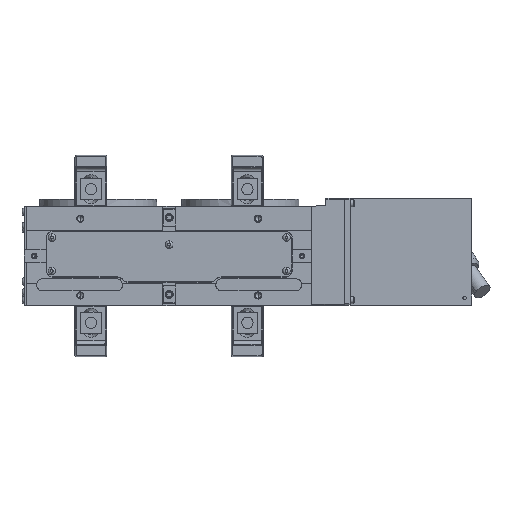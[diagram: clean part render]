
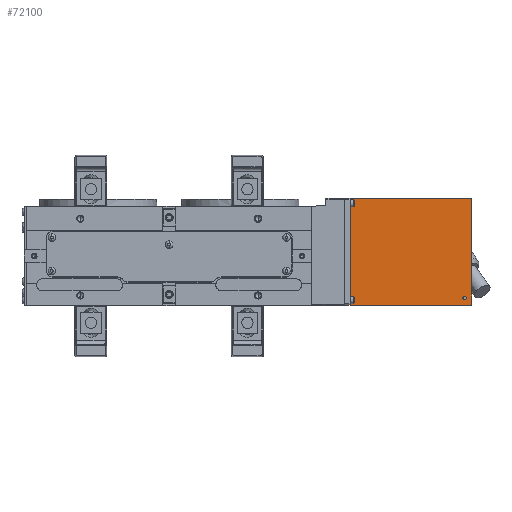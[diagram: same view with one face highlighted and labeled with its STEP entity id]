
A CAD part, front view. The second image highlights one B-rep face of the part: STEP entity #72100.
In plain terms, the highlighted planar face has unit normal (0, -1, 0).
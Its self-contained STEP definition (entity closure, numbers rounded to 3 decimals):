
#132 = DIRECTION ( 'NONE',  ( 0., -1., 0. ) ) ;
#2742 = LINE ( 'NONE', #78595, #48412 ) ;
#8885 = CARTESIAN_POINT ( 'NONE',  ( 179., 17., 0. ) ) ;
#12226 = ORIENTED_EDGE ( 'NONE', *, *, #22628, .F. ) ;
#15243 = EDGE_CURVE ( 'NONE', #27473, #57325, #101691, .T. ) ;
#15853 = CARTESIAN_POINT ( 'NONE',  ( 179., 17., -150. ) ) ;
#18195 = CARTESIAN_POINT ( 'NONE',  ( 8., 17., -150. ) ) ;
#21156 = EDGE_CURVE ( 'NONE', #57325, #27473, #35762, .T. ) ;
#21452 = ORIENTED_EDGE ( 'NONE', *, *, #21156, .F. ) ;
#22628 = EDGE_CURVE ( 'NONE', #100465, #42738, #2742, .T. ) ;
#23326 = FACE_OUTER_BOUND ( 'NONE', #43885, .T. ) ;
#27473 = VERTEX_POINT ( 'NONE', #37170 ) ;
#30531 = AXIS2_PLACEMENT_3D ( 'NONE', #74920, #132, #50411 ) ;
#32205 = CARTESIAN_POINT ( 'NONE',  ( 8., 17., 0. ) ) ;
#33148 = FACE_BOUND ( 'NONE', #46434, .T. ) ;
#33573 = DIRECTION ( 'NONE',  ( 0., 0., -1. ) ) ;
#35075 = CARTESIAN_POINT ( 'NONE',  ( 169., 17., -137.5 ) ) ;
#35762 = CIRCLE ( 'NONE', #30531, 2.5 ) ;
#35787 = AXIS2_PLACEMENT_3D ( 'NONE', #40847, #106345, #64809 ) ;
#37170 = CARTESIAN_POINT ( 'NONE',  ( 169., 17., -142.5 ) ) ;
#40847 = CARTESIAN_POINT ( 'NONE',  ( 179., 17., -150. ) ) ;
#42033 = DIRECTION ( 'NONE',  ( 0., -1., 0. ) ) ;
#42278 = DIRECTION ( 'NONE',  ( -1., 0., 0. ) ) ;
#42572 = ORIENTED_EDGE ( 'NONE', *, *, #51937, .F. ) ;
#42738 = VERTEX_POINT ( 'NONE', #18195 ) ;
#43885 = EDGE_LOOP ( 'NONE', ( #79650, #12226, #42572, #59253 ) ) ;
#45874 = AXIS2_PLACEMENT_3D ( 'NONE', #58870, #42033, #75222 ) ;
#45897 = EDGE_CURVE ( 'NONE', #105268, #42738, #70182, .T. ) ;
#46434 = EDGE_LOOP ( 'NONE', ( #80909, #21452 ) ) ;
#48412 = VECTOR ( 'NONE', #69362, 1000. ) ;
#50411 = DIRECTION ( 'NONE',  ( 0., 0., -1. ) ) ;
#51937 = EDGE_CURVE ( 'NONE', #81201, #100465, #57368, .T. ) ;
#57325 = VERTEX_POINT ( 'NONE', #35075 ) ;
#57368 = LINE ( 'NONE', #15853, #83300 ) ;
#58870 = CARTESIAN_POINT ( 'NONE',  ( 169., 17., -140. ) ) ;
#58977 = DIRECTION ( 'NONE',  ( 0., 0., -1. ) ) ;
#59253 = ORIENTED_EDGE ( 'NONE', *, *, #94055, .T. ) ;
#64809 = DIRECTION ( 'NONE',  ( 0., 0., 1. ) ) ;
#66781 = LINE ( 'NONE', #8885, #71552 ) ;
#69362 = DIRECTION ( 'NONE',  ( -1., 0., 0. ) ) ;
#70182 = LINE ( 'NONE', #103522, #96476 ) ;
#71552 = VECTOR ( 'NONE', #42278, 1000. ) ;
#72100 = ADVANCED_FACE ( 'NONE', ( #33148, #23326 ), #90468, .F. ) ;
#74920 = CARTESIAN_POINT ( 'NONE',  ( 169., 17., -140. ) ) ;
#75222 = DIRECTION ( 'NONE',  ( 0., 0., -1. ) ) ;
#78595 = CARTESIAN_POINT ( 'NONE',  ( 179., 17., -150. ) ) ;
#79650 = ORIENTED_EDGE ( 'NONE', *, *, #45897, .T. ) ;
#80909 = ORIENTED_EDGE ( 'NONE', *, *, #15243, .F. ) ;
#81201 = VERTEX_POINT ( 'NONE', #85115 ) ;
#83300 = VECTOR ( 'NONE', #58977, 1000. ) ;
#85115 = CARTESIAN_POINT ( 'NONE',  ( 179., 17., 0. ) ) ;
#90468 = PLANE ( 'NONE',  #35787 ) ;
#92882 = CARTESIAN_POINT ( 'NONE',  ( 179., 17., -150. ) ) ;
#94055 = EDGE_CURVE ( 'NONE', #81201, #105268, #66781, .T. ) ;
#96476 = VECTOR ( 'NONE', #33573, 1000. ) ;
#100465 = VERTEX_POINT ( 'NONE', #92882 ) ;
#101691 = CIRCLE ( 'NONE', #45874, 2.5 ) ;
#103522 = CARTESIAN_POINT ( 'NONE',  ( 8., 17., -150. ) ) ;
#105268 = VERTEX_POINT ( 'NONE', #32205 ) ;
#106345 = DIRECTION ( 'NONE',  ( 0., 1., 0. ) ) ;
